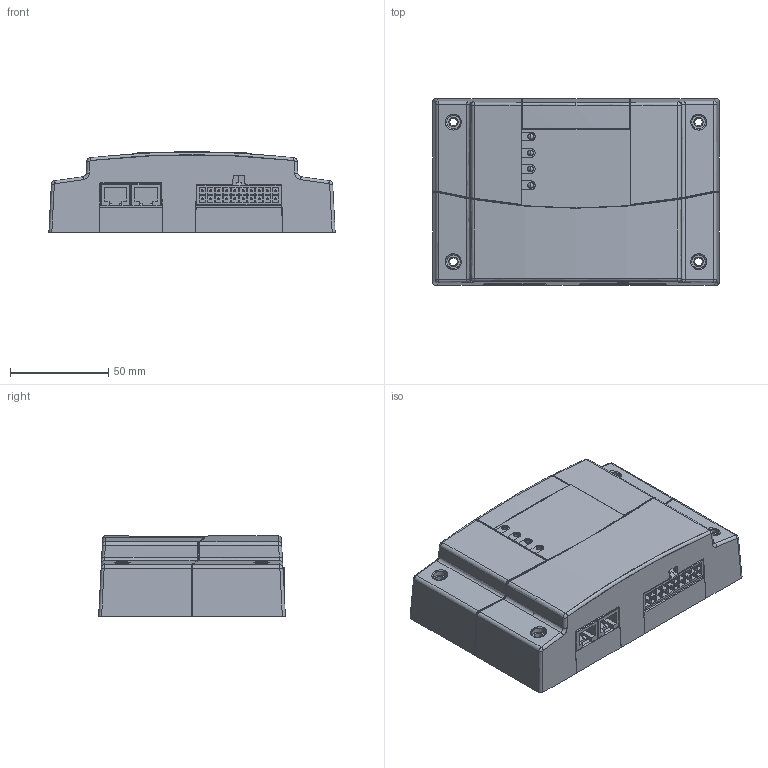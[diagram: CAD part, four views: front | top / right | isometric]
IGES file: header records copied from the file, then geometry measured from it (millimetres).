
Start section: SolidWorks IGES file using analytic representation for surfaces
Global section: file name: N:\DavidM\SCP_Shell.IGS; native system: SolidWorks 2013; preprocessor: SolidWorks 2013; author: sesa125144; date: 140410.141904; units: millimetre
Bounding box: 146.05 x 95.27 x 41 mm (x, y, z)
Surface area: 131163.5 mm2 (no closed solid volume)
Topology: 0 solids, 0 shells, 2571 faces, 23515 edges, 23479 vertices
Faces by surface type: bspline 1635, revolution 936
